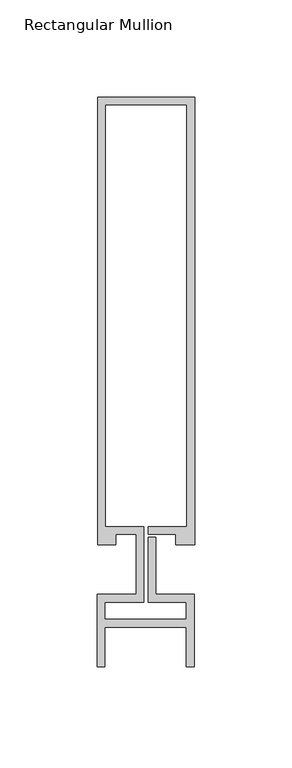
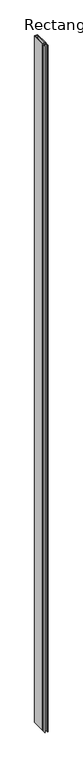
"""IFC4 building model written with IfcOpenShell, lengths in millimetres: member geometry, Rectangular Mullion : Reynaers_CW-50_Transom-Transom_230.5mm_Facecap-03."""

import ifcopenshell
import ifcopenshell.guid

model = None  # the IFC model being written
_history = None  # IfcOwnerHistory: only IFC2X3 demands one
_inside = {}  # id of a spatial element -> (the spatial element, [elements in it])
_under = {}  # id of a project, library or spatial element -> (it, [spatial elements below it])
_declared = {}  # id of a project -> (the project, [libraries it declares])
_typed = {}  # id of a type object -> (the type object, [elements of that type])
_made_of = {}  # id of a material, layer set ... -> (it, [elements and type objects made of it])


def new_model(schema):
    """Start an empty IFC model of exactly this schema.

    Asked for "IFC4X3", IfcOpenShell would pick the latest addendum, in which some entities
    have other attributes; the version numbers below select the first issue.
    IFC2X3 requires an IfcOwnerHistory on every rooted entity: one is made here for all.
    """
    global model, _history
    if schema == "IFC4X3":
        model = ifcopenshell.file(schema_version=(4, 3, 0, 0))
    else:
        model = ifcopenshell.file(schema=schema)
    _inside.clear()
    _under.clear()
    _declared.clear()
    _typed.clear()
    _made_of.clear()
    _history = None
    if model.schema == "IFC2X3":
        org = make("IfcOrganization", Name="unknown")
        user = make(
            "IfcPersonAndOrganization",
            ThePerson=make("IfcPerson", FamilyName="unknown"),
            TheOrganization=org,
        )
        app = make(
            "IfcApplication",
            ApplicationDeveloper=org,
            Version="unknown",
            ApplicationFullName="unknown",
            ApplicationIdentifier="unknown",
        )
        _history = make(
            "IfcOwnerHistory",
            OwningUser=user,
            OwningApplication=app,
            ChangeAction="ADDED",
            CreationDate=0,
        )
    return model


def make(cls, **values):
    """One entity of the class cls with the attributes given. An attribute that is None is left unset."""
    return model.create_entity(
        cls, **{name: value for name, value in values.items() if value is not None}
    )


def rooted(cls, **values):
    """An entity with a GlobalId (a new one), such as an element, a storey or a relation."""
    return make(cls, GlobalId=ifcopenshell.guid.new(), OwnerHistory=_history, **values)


def si_unit(unit_type, name, prefix=None):
    """IfcSIUnit, for example si_unit("LENGTHUNIT", "METRE", prefix="MILLI")."""
    return make("IfcSIUnit", UnitType=unit_type, Prefix=prefix, Name=name)


def assignment(units):
    """IfcUnitAssignment: the units of a project."""
    return None if units is None else make("IfcUnitAssignment", Units=units)


def point(xyz):
    """IfcCartesianPoint."""
    return None if xyz is None else make("IfcCartesianPoint", Coordinates=xyz)


def direction(xyz):
    """IfcDirection."""
    return None if xyz is None else make("IfcDirection", DirectionRatios=xyz)


def frame(location, z_axis=None, x_axis=None):
    """IfcAxis2Placement3D, a coordinate frame: its origin and axes. An axis left out is left unset."""
    return make(
        "IfcAxis2Placement3D",
        Location=point(location),
        Axis=direction(z_axis),
        RefDirection=direction(x_axis),
    )


def origin():
    """The frame at (0, 0, 0) with its axes left unset."""
    return frame((0.0, 0.0, 0.0))


def place(relative_to, where):
    """IfcLocalPlacement: puts the frame where relative to a parent placement (None: the world)."""
    return make(
        "IfcLocalPlacement", PlacementRelTo=relative_to, RelativePlacement=where
    )


def context(
    kind, dimensions, precision=None, world=None, true_north=None, identifier=None
):
    """IfcGeometricRepresentationContext, for example the 3D "Model" context."""
    return make(
        "IfcGeometricRepresentationContext",
        ContextIdentifier=identifier,
        ContextType=kind,
        CoordinateSpaceDimension=dimensions,
        Precision=precision,
        WorldCoordinateSystem=world,
        TrueNorth=true_north,
    )


def project(units=None, contexts=None):
    """IfcProject with its units and contexts."""
    return rooted(
        "IfcProject",
        Name="project",
        RepresentationContexts=contexts,
        UnitsInContext=assignment(units),
    )


def spatial(cls, under=None, at=None, **own):
    """A site, building, storey or space (cls), placed at a placement, below another one or the project."""
    s = rooted(cls, ObjectPlacement=at, **own)
    if under is not None:
        _under.setdefault(under.id(), (under, []))[1].append(s)
    return s


def polyline(points):
    """IfcPolyline through the points."""
    return make("IfcPolyline", Points=[point(p) for p in points])


def outline(outer, holes=None, kind="AREA"):
    """IfcArbitraryClosedProfileDef: a profile drawn as a closed curve; with holes, ...WithVoids."""
    if holes is None:
        return make("IfcArbitraryClosedProfileDef", ProfileType=kind, OuterCurve=outer)
    return make(
        "IfcArbitraryProfileDefWithVoids",
        ProfileType=kind,
        OuterCurve=outer,
        InnerCurves=holes,
    )


def extrude(swept, where, along, depth):
    """IfcExtrudedAreaSolid: the profile swept, set in the frame where, extruded along a direction by depth."""
    return make(
        "IfcExtrudedAreaSolid",
        SweptArea=swept,
        Position=where,
        ExtrudedDirection=direction(along),
        Depth=depth,
    )


def shape(context_of_items, identifier, shape_type, items):
    """IfcShapeRepresentation: the items that make up one representation, for example the "Body"."""
    return make(
        "IfcShapeRepresentation",
        ContextOfItems=context_of_items,
        RepresentationIdentifier=identifier,
        RepresentationType=shape_type,
        Items=items,
    )


def source(mapping_origin, context_of_items, identifier, shape_type, items):
    """IfcRepresentationMap: a shape defined once, which mapped items show again and again."""
    return make(
        "IfcRepresentationMap",
        MappingOrigin=mapping_origin,
        MappedRepresentation=shape(context_of_items, identifier, shape_type, items),
    )


def transform(
    local_origin,
    x_axis=None,
    y_axis=None,
    z_axis=None,
    scale=None,
    scale2=None,
    scale3=None,
    uniform=True,
):
    """IfcCartesianTransformationOperator3D, or its non-uniform kind. x_axis, y_axis, z_axis: its Axis1, 2, 3."""
    if uniform:
        return make(
            "IfcCartesianTransformationOperator3D",
            Axis1=direction(x_axis),
            Axis2=direction(y_axis),
            LocalOrigin=point(local_origin),
            Scale=scale,
            Axis3=direction(z_axis),
        )
    return make(
        "IfcCartesianTransformationOperator3DnonUniform",
        Axis1=direction(x_axis),
        Axis2=direction(y_axis),
        LocalOrigin=point(local_origin),
        Scale=scale,
        Axis3=direction(z_axis),
        Scale2=scale2,
        Scale3=scale3,
    )


def mapped(mapping_source, mapping_target):
    """IfcMappedItem: shows the shape of a source again, moved by a transform."""
    return make(
        "IfcMappedItem", MappingSource=mapping_source, MappingTarget=mapping_target
    )


def made_of(thing, what):
    """Note that an element or type object is made of a material, layer set ...; save() writes the relation."""
    if what is not None:
        _made_of.setdefault(what.id(), (what, []))[1].append(thing)
    return thing


def element(
    cls,
    number,
    at=None,
    inside=None,
    cuts=None,
    type_object=None,
    material=None,
    context=None,
    identifier="Body",
    shape_type=None,
    held_by="IfcProductDefinitionShape",
    body=None,
    shapes=None,
    **own,
):
    """One element of the class cls, such as IfcWall. Its Tag is "e" and its number.

    at: its placement. inside: the storey or other place that contains it. cuts: it is an
    opening in that element (IfcRelVoidsElement). A single representation is given by context,
    identifier, shape_type and body (its items); several are given by shapes. held_by: the class
    of the entity that holds the representations. save() writes the other relations.
    """
    e = rooted(cls, Tag="e%d" % number, ObjectPlacement=at, **own)
    if body is not None:
        shapes = [shape(context, identifier, shape_type, body)]
    if shapes is not None:
        e.Representation = make(held_by, Representations=shapes)
    if inside is not None:
        _inside.setdefault(inside.id(), (inside, []))[1].append(e)
    if cuts is not None:
        rooted(
            "IfcRelVoidsElement", RelatingBuildingElement=cuts, RelatedOpeningElement=e
        )
    if type_object is not None:
        _typed.setdefault(type_object.id(), (type_object, []))[1].append(e)
    return made_of(e, material)


def aggregate(whole, parts):
    """IfcRelAggregates: a whole, such as a stair, and the parts it consists of."""
    return rooted("IfcRelAggregates", RelatingObject=whole, RelatedObjects=parts)


def save(model, path):
    """Write the relations noted so far, then the file.

    IfcRelAggregates (storeys below a building ...), IfcRelContainedInSpatialStructure (elements
    in a storey), IfcRelDefinesByType, IfcRelAssociatesMaterial and IfcRelDeclares: one each for
    every whole, place, type object, material and project.
    """
    for whole, parts in _under.values():
        aggregate(whole, parts)
    for where, things in _inside.values():
        rooted(
            "IfcRelContainedInSpatialStructure",
            RelatedElements=things,
            RelatingStructure=where,
        )
    for kind, things in _typed.values():
        rooted("IfcRelDefinesByType", RelatedObjects=things, RelatingType=kind)
    for what, things in _made_of.values():
        rooted("IfcRelAssociatesMaterial", RelatedObjects=things, RelatingMaterial=what)
    for by, libraries in _declared.values():
        rooted("IfcRelDeclares", RelatingContext=by, RelatedDefinitions=libraries)
    model.write(path)


def rectangular_mullion_a40413b4(model_context):
    return source(origin(), model_context, "Body", "SweptSolid", [
        extrude(outline(polyline([(25.1995941, 12.7331291), (15.499, 12.7331291), (15.499, 18.1331291), (1.2995941, 18.1331291), (1.2995941, 22.1331291), (21.1995941, 22.1331291), (21.1995941, 239.2331291), (-20.8004059, 239.2331291), (-20.8004059, 22.1331291), (-0.9004059, 22.1331291), (-0.9004059, -16.7331291), (-20.994845, -16.7331291), (-20.994845, -25.5600018), (20.994845, -25.5600018), (20.994845, -16.7331291), (1.2995941, -16.7331291), (1.2995941, 16.7615089), (5.2995941, 16.7615089), (5.2995941, -12.7331291), (24.994845, -12.7331291), (24.994845, -50.0331291), (20.994845, -50.0331291), (20.994845, -29.5600018), (-20.994845, -29.5600018), (-20.994845, -50.0331291), (-24.994845, -50.0331291), (-24.994845, -12.7331291), (-4.9004059, -12.7331291), (-4.9004059, 18.1331291), (-15.499, 18.1331291), (-15.499, 12.7331291), (-24.8004059, 12.7331291), (-24.8004059, 243.2331291), (25.1995941, 243.2331291), (25.1995941, 12.7331291)])), frame((0.0, 0.0, -12000.0), z_axis=(0.0, 0.0, 1.0), x_axis=(1.0, 0.0, 0.0)), (0.0, 0.0, 1.0), 12000.0),
    ])


if __name__ == "__main__":
    model = new_model("IFC4")
    model_context = context("Model", 3, world=origin())
    ifc_project = project(units=[si_unit("LENGTHUNIT", "METRE", prefix="MILLI")], contexts=[model_context])
    site = spatial("IfcSite", under=ifc_project)
    building = spatial("IfcBuilding", under=site)
    placement = place(None, origin())
    rectangular_mullion_shape = rectangular_mullion_a40413b4(model_context)
    element("IfcMember", 1, ObjectType="Rectangular Mullion : Reynaers_CW-50_Transom-Transom_230.5mm_Facecap-03", at=placement, inside=building, context=model_context, shape_type="MappedRepresentation", body=[
        mapped(rectangular_mullion_shape, transform((0.0, 0.0, 0.0), x_axis=(1.0, 0.0, 0.0), y_axis=(0.0, 1.0, 0.0), z_axis=(0.0, 0.0, 1.0))),
    ])
    save(model, "model.ifc")
